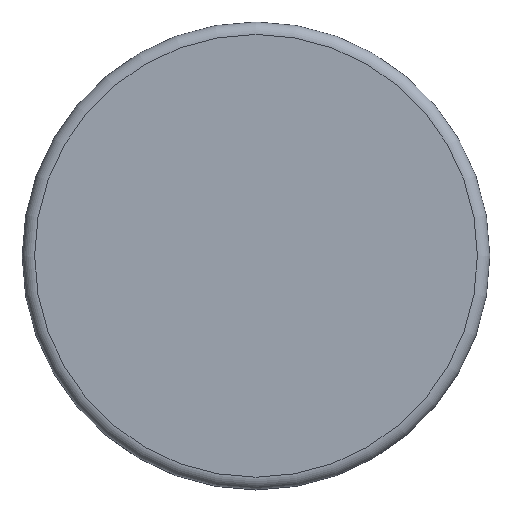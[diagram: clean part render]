
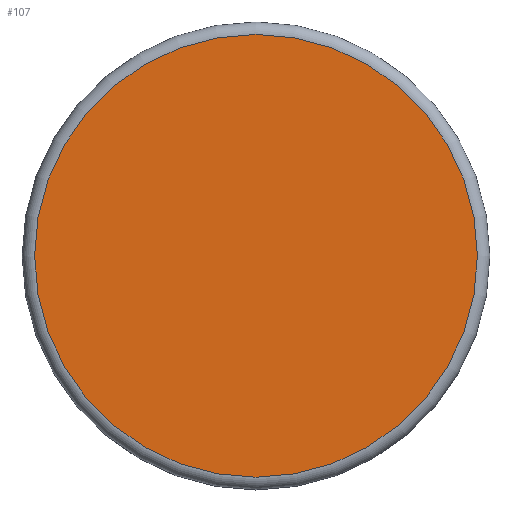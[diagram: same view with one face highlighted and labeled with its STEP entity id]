
A CAD part, top view. The second image highlights one B-rep face of the part: STEP entity #107.
In plain terms, the highlighted planar face has unit normal (0, 0, 1).
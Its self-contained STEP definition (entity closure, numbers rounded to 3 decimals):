
#15=PLANE('',#140);
#26=FACE_OUTER_BOUND('',#32,.T.);
#32=EDGE_LOOP('',(#83,#84));
#37=CIRCLE('',#132,35.5);
#41=CIRCLE('',#136,35.5);
#48=VERTEX_POINT('',#188);
#49=VERTEX_POINT('',#189);
#58=EDGE_CURVE('',#48,#49,#37,.T.);
#62=EDGE_CURVE('',#49,#48,#41,.T.);
#83=ORIENTED_EDGE('',*,*,#58,.F.);
#84=ORIENTED_EDGE('',*,*,#62,.F.);
#107=ADVANCED_FACE('',(#26),#15,.T.);
#132=AXIS2_PLACEMENT_3D('',#190,#152,#153);
#136=AXIS2_PLACEMENT_3D('',#196,#160,#161);
#140=AXIS2_PLACEMENT_3D('',#203,#169,#170);
#152=DIRECTION('center_axis',(0.,0.,-1.));
#153=DIRECTION('ref_axis',(-1.,0.,0.));
#160=DIRECTION('center_axis',(0.,0.,-1.));
#161=DIRECTION('ref_axis',(-1.,0.,0.));
#169=DIRECTION('center_axis',(0.,0.,1.));
#170=DIRECTION('ref_axis',(1.,0.,0.));
#188=CARTESIAN_POINT('',(35.5,0.,30.));
#189=CARTESIAN_POINT('',(-35.5,0.,30.));
#190=CARTESIAN_POINT('Origin',(0.,0.,30.));
#196=CARTESIAN_POINT('Origin',(0.,0.,30.));
#203=CARTESIAN_POINT('Origin',(0.,0.,30.));
